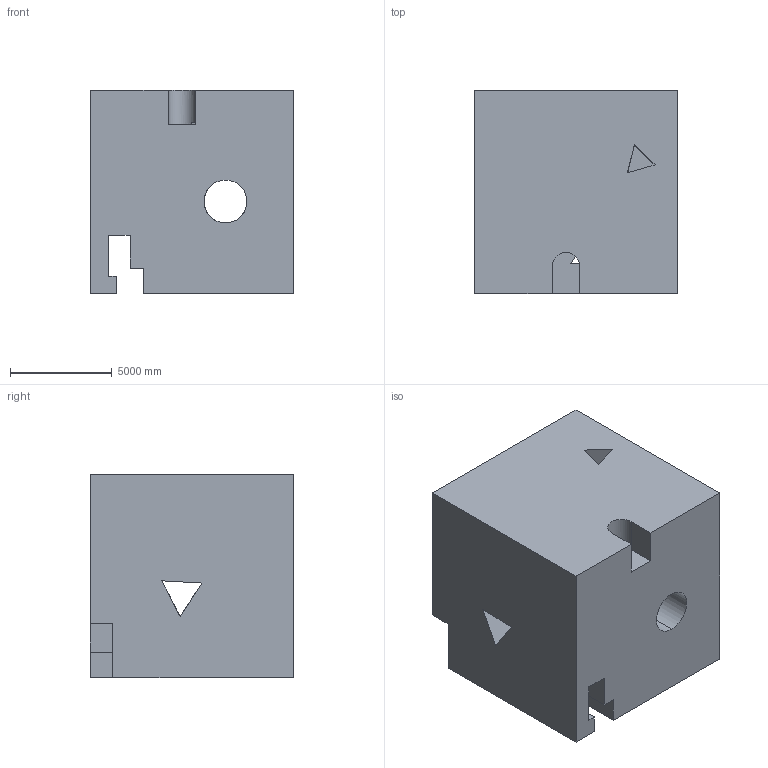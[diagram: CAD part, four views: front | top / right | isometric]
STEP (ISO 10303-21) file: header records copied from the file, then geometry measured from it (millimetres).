
FILE_DESCRIPTION (( 'STEP AP203' ), '1' );
FILE_NAME ('940.STEP', '2022-07-29T14:30:44', ( 'user' ), ( '' ), 'SwSTEP 2.0', 'SolidWorks 2021', '' );
FILE_SCHEMA (( 'CONFIG_CONTROL_DESIGN' ));
Length unit declared in the file: centimetre
Products named in the file (1): 940
Bounding box: 10000 x 10000 x 10000 mm (x, y, z)
Volume: 889901635081.7 mm3; surface area: 833381698.6 mm2
Topology: 1 solids, 1 shells, 42 faces, 129 edges, 86 vertices
Faces by surface type: plane 37, cylinder 5
Entity records: 1529 total; most frequent: CARTESIAN_POINT 285, ORIENTED_EDGE 258, DIRECTION 221, EDGE_CURVE 129, LINE 105, VECTOR 105, VERTEX_POINT 86, AXIS2_PLACEMENT_3D 58
